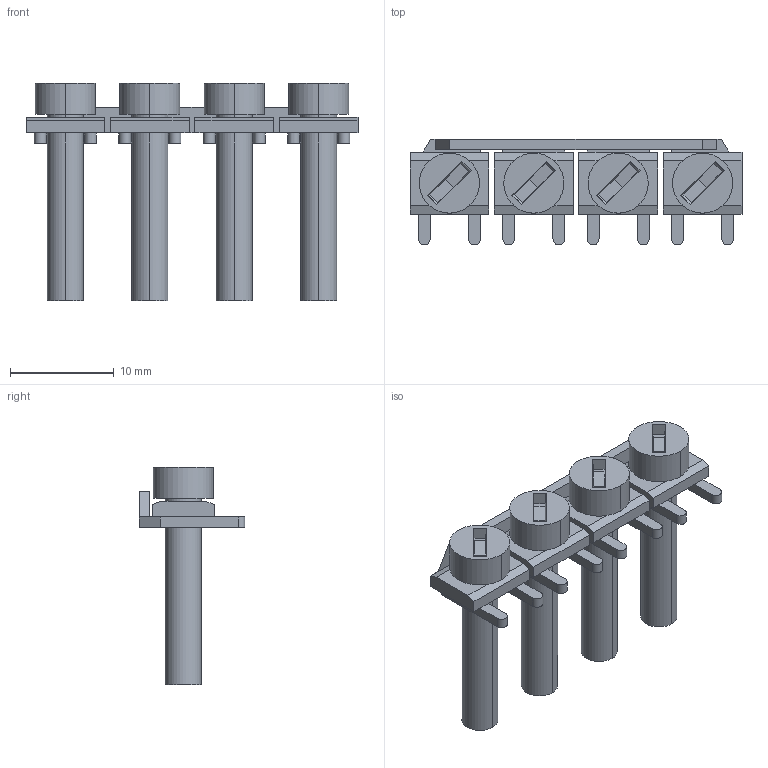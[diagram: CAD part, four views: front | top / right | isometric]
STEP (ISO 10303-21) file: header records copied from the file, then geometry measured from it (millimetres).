
FILE_DESCRIPTION( ('This file contains a STEP AP42 implementation' ,'as created by ZW3D STEP Interface translator.') ,'2;1' );
FILE_NAME( 'FB-4-RTK-S_3D.stp' ,'23 729.115513', (''), ('ZWCAD Software Co.'), 'Version 1.0', 'ZW3D to STEP translator', '' );
FILE_SCHEMA(('AUTOMOTIVE_DESIGN { 1 0 10303 214 1 1 1 1 }'));
Length unit declared in the file: millimetre
Products named in the file (2): 0; FB_10-RTK_S-select
Bounding box: 32.05 x 10.2 x 21 mm (x, y, z)
Volume: 1383.6 mm3; surface area: 2082.3 mm2
Topology: 1 solids, 1 shells, 162 faces, 402 edges, 258 vertices
Faces by surface type: plane 126, cylinder 36
Entity records: 4930 total; most frequent: CARTESIAN_POINT 823, ORIENTED_EDGE 804, DIRECTION 800, EDGE_CURVE 402, VECTOR 330, LINE 330, VERTEX_POINT 258, AXIS2_PLACEMENT_3D 235
